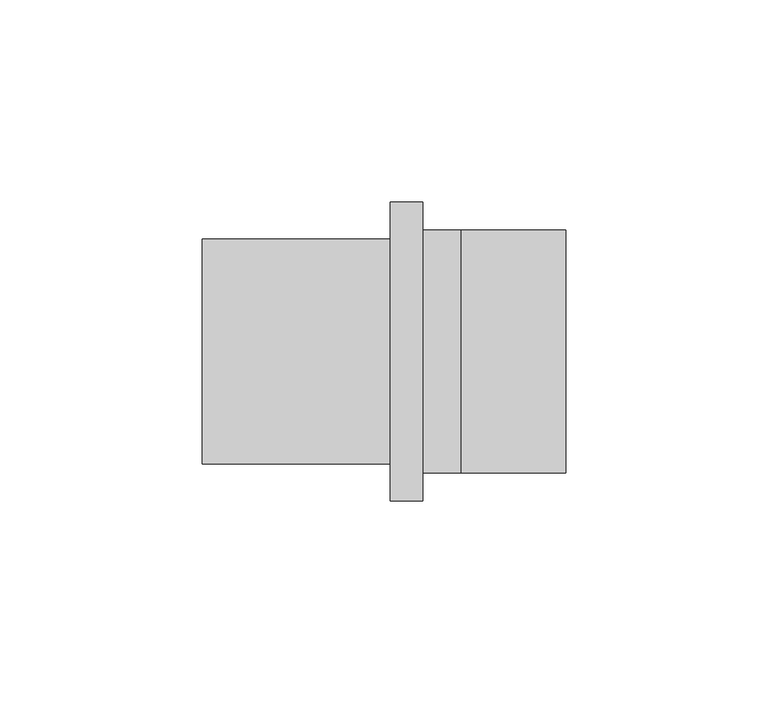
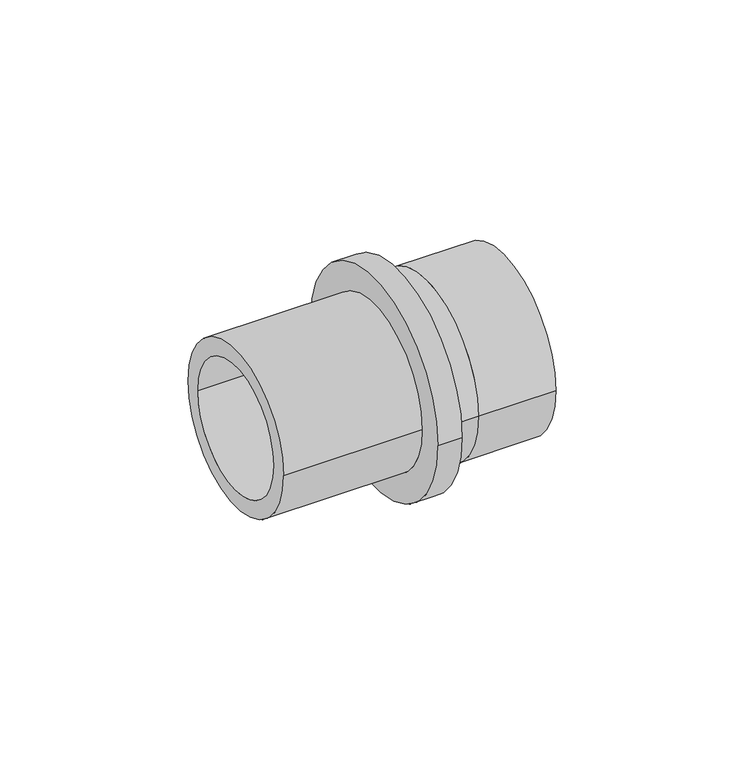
"""IFC4 building model written with IfcOpenShell, lengths in millimetres: pipe fitting geometry, Adapter with welding end : A welding LX."""

import ifcopenshell
import ifcopenshell.guid

model = None  # the IFC model being written
_history = None  # IfcOwnerHistory: only IFC2X3 demands one
_inside = {}  # id of a spatial element -> (the spatial element, [elements in it])
_under = {}  # id of a project, library or spatial element -> (it, [spatial elements below it])
_declared = {}  # id of a project -> (the project, [libraries it declares])
_typed = {}  # id of a type object -> (the type object, [elements of that type])
_made_of = {}  # id of a material, layer set ... -> (it, [elements and type objects made of it])


def new_model(schema):
    """Start an empty IFC model of exactly this schema.

    Asked for "IFC4X3", IfcOpenShell would pick the latest addendum, in which some entities
    have other attributes; the version numbers below select the first issue.
    IFC2X3 requires an IfcOwnerHistory on every rooted entity: one is made here for all.
    """
    global model, _history
    if schema == "IFC4X3":
        model = ifcopenshell.file(schema_version=(4, 3, 0, 0))
    else:
        model = ifcopenshell.file(schema=schema)
    _inside.clear()
    _under.clear()
    _declared.clear()
    _typed.clear()
    _made_of.clear()
    _history = None
    if model.schema == "IFC2X3":
        org = make("IfcOrganization", Name="unknown")
        user = make(
            "IfcPersonAndOrganization",
            ThePerson=make("IfcPerson", FamilyName="unknown"),
            TheOrganization=org,
        )
        app = make(
            "IfcApplication",
            ApplicationDeveloper=org,
            Version="unknown",
            ApplicationFullName="unknown",
            ApplicationIdentifier="unknown",
        )
        _history = make(
            "IfcOwnerHistory",
            OwningUser=user,
            OwningApplication=app,
            ChangeAction="ADDED",
            CreationDate=0,
        )
    return model


def make(cls, **values):
    """One entity of the class cls with the attributes given. An attribute that is None is left unset."""
    return model.create_entity(
        cls, **{name: value for name, value in values.items() if value is not None}
    )


def rooted(cls, **values):
    """An entity with a GlobalId (a new one), such as an element, a storey or a relation."""
    return make(cls, GlobalId=ifcopenshell.guid.new(), OwnerHistory=_history, **values)


def si_unit(unit_type, name, prefix=None):
    """IfcSIUnit, for example si_unit("LENGTHUNIT", "METRE", prefix="MILLI")."""
    return make("IfcSIUnit", UnitType=unit_type, Prefix=prefix, Name=name)


def assignment(units):
    """IfcUnitAssignment: the units of a project."""
    return None if units is None else make("IfcUnitAssignment", Units=units)


def point(xyz):
    """IfcCartesianPoint."""
    return None if xyz is None else make("IfcCartesianPoint", Coordinates=xyz)


def direction(xyz):
    """IfcDirection."""
    return None if xyz is None else make("IfcDirection", DirectionRatios=xyz)


def frame(location, z_axis=None, x_axis=None):
    """IfcAxis2Placement3D, a coordinate frame: its origin and axes. An axis left out is left unset."""
    return make(
        "IfcAxis2Placement3D",
        Location=point(location),
        Axis=direction(z_axis),
        RefDirection=direction(x_axis),
    )


def frame_2d(location, x_axis=None):
    """IfcAxis2Placement2D, a coordinate frame in the plane: its origin and x axis."""
    return make(
        "IfcAxis2Placement2D", Location=point(location), RefDirection=direction(x_axis)
    )


def origin():
    """The frame at (0, 0, 0) with its axes left unset."""
    return frame((0.0, 0.0, 0.0))


def origin_2d():
    """The frame at (0, 0) in the plane with its x axis left unset."""
    return frame_2d((0.0, 0.0))


def place(relative_to, where):
    """IfcLocalPlacement: puts the frame where relative to a parent placement (None: the world)."""
    return make(
        "IfcLocalPlacement", PlacementRelTo=relative_to, RelativePlacement=where
    )


def context(
    kind, dimensions, precision=None, world=None, true_north=None, identifier=None
):
    """IfcGeometricRepresentationContext, for example the 3D "Model" context."""
    return make(
        "IfcGeometricRepresentationContext",
        ContextIdentifier=identifier,
        ContextType=kind,
        CoordinateSpaceDimension=dimensions,
        Precision=precision,
        WorldCoordinateSystem=world,
        TrueNorth=true_north,
    )


def project(units=None, contexts=None):
    """IfcProject with its units and contexts."""
    return rooted(
        "IfcProject",
        Name="project",
        RepresentationContexts=contexts,
        UnitsInContext=assignment(units),
    )


def spatial(cls, under=None, at=None, **own):
    """A site, building, storey or space (cls), placed at a placement, below another one or the project."""
    s = rooted(cls, ObjectPlacement=at, **own)
    if under is not None:
        _under.setdefault(under.id(), (under, []))[1].append(s)
    return s


def polyline(points):
    """IfcPolyline through the points."""
    return make("IfcPolyline", Points=[point(p) for p in points])


def circle_curve(where, radius):
    """IfcCircle in the frame where."""
    return make("IfcCircle", Position=where, Radius=radius)


def trimmed(basis, trim1, trim2, sense, master):
    """IfcTrimmedCurve: the piece of a basis curve between two trims."""
    return make(
        "IfcTrimmedCurve",
        BasisCurve=basis,
        Trim1=trim1,
        Trim2=trim2,
        SenseAgreement=sense,
        MasterRepresentation=master,
    )


def segment(curve, same_sense, transition):
    """IfcCompositeCurveSegment."""
    return make(
        "IfcCompositeCurveSegment",
        Transition=transition,
        SameSense=same_sense,
        ParentCurve=curve,
    )


def composite_curve(segments, self_intersect=None):
    """IfcCompositeCurve: segments joined end to end."""
    return make("IfcCompositeCurve", Segments=segments, SelfIntersect=self_intersect)


def outline(outer, holes=None, kind="AREA"):
    """IfcArbitraryClosedProfileDef: a profile drawn as a closed curve; with holes, ...WithVoids."""
    if holes is None:
        return make("IfcArbitraryClosedProfileDef", ProfileType=kind, OuterCurve=outer)
    return make(
        "IfcArbitraryProfileDefWithVoids",
        ProfileType=kind,
        OuterCurve=outer,
        InnerCurves=holes,
    )


def extrude(swept, where, along, depth):
    """IfcExtrudedAreaSolid: the profile swept, set in the frame where, extruded along a direction by depth."""
    return make(
        "IfcExtrudedAreaSolid",
        SweptArea=swept,
        Position=where,
        ExtrudedDirection=direction(along),
        Depth=depth,
    )


def shape(context_of_items, identifier, shape_type, items):
    """IfcShapeRepresentation: the items that make up one representation, for example the "Body"."""
    return make(
        "IfcShapeRepresentation",
        ContextOfItems=context_of_items,
        RepresentationIdentifier=identifier,
        RepresentationType=shape_type,
        Items=items,
    )


def source(mapping_origin, context_of_items, identifier, shape_type, items):
    """IfcRepresentationMap: a shape defined once, which mapped items show again and again."""
    return make(
        "IfcRepresentationMap",
        MappingOrigin=mapping_origin,
        MappedRepresentation=shape(context_of_items, identifier, shape_type, items),
    )


def transform(
    local_origin,
    x_axis=None,
    y_axis=None,
    z_axis=None,
    scale=None,
    scale2=None,
    scale3=None,
    uniform=True,
):
    """IfcCartesianTransformationOperator3D, or its non-uniform kind. x_axis, y_axis, z_axis: its Axis1, 2, 3."""
    if uniform:
        return make(
            "IfcCartesianTransformationOperator3D",
            Axis1=direction(x_axis),
            Axis2=direction(y_axis),
            LocalOrigin=point(local_origin),
            Scale=scale,
            Axis3=direction(z_axis),
        )
    return make(
        "IfcCartesianTransformationOperator3DnonUniform",
        Axis1=direction(x_axis),
        Axis2=direction(y_axis),
        LocalOrigin=point(local_origin),
        Scale=scale,
        Axis3=direction(z_axis),
        Scale2=scale2,
        Scale3=scale3,
    )


def mapped(mapping_source, mapping_target):
    """IfcMappedItem: shows the shape of a source again, moved by a transform."""
    return make(
        "IfcMappedItem", MappingSource=mapping_source, MappingTarget=mapping_target
    )


def made_of(thing, what):
    """Note that an element or type object is made of a material, layer set ...; save() writes the relation."""
    if what is not None:
        _made_of.setdefault(what.id(), (what, []))[1].append(thing)
    return thing


def element(
    cls,
    number,
    at=None,
    inside=None,
    cuts=None,
    type_object=None,
    material=None,
    context=None,
    identifier="Body",
    shape_type=None,
    held_by="IfcProductDefinitionShape",
    body=None,
    shapes=None,
    **own,
):
    """One element of the class cls, such as IfcWall. Its Tag is "e" and its number.

    at: its placement. inside: the storey or other place that contains it. cuts: it is an
    opening in that element (IfcRelVoidsElement). A single representation is given by context,
    identifier, shape_type and body (its items); several are given by shapes. held_by: the class
    of the entity that holds the representations. save() writes the other relations.
    """
    e = rooted(cls, Tag="e%d" % number, ObjectPlacement=at, **own)
    if body is not None:
        shapes = [shape(context, identifier, shape_type, body)]
    if shapes is not None:
        e.Representation = make(held_by, Representations=shapes)
    if inside is not None:
        _inside.setdefault(inside.id(), (inside, []))[1].append(e)
    if cuts is not None:
        rooted(
            "IfcRelVoidsElement", RelatingBuildingElement=cuts, RelatedOpeningElement=e
        )
    if type_object is not None:
        _typed.setdefault(type_object.id(), (type_object, []))[1].append(e)
    return made_of(e, material)


def aggregate(whole, parts):
    """IfcRelAggregates: a whole, such as a stair, and the parts it consists of."""
    return rooted("IfcRelAggregates", RelatingObject=whole, RelatedObjects=parts)


def save(model, path):
    """Write the relations noted so far, then the file.

    IfcRelAggregates (storeys below a building ...), IfcRelContainedInSpatialStructure (elements
    in a storey), IfcRelDefinesByType, IfcRelAssociatesMaterial and IfcRelDeclares: one each for
    every whole, place, type object, material and project.
    """
    for whole, parts in _under.values():
        aggregate(whole, parts)
    for where, things in _inside.values():
        rooted(
            "IfcRelContainedInSpatialStructure",
            RelatedElements=things,
            RelatingStructure=where,
        )
    for kind, things in _typed.values():
        rooted("IfcRelDefinesByType", RelatedObjects=things, RelatingType=kind)
    for what, things in _made_of.values():
        rooted("IfcRelAssociatesMaterial", RelatedObjects=things, RelatingMaterial=what)
    for by, libraries in _declared.values():
        rooted("IfcRelDeclares", RelatingContext=by, RelatedDefinitions=libraries)
    model.write(path)


def plane_surface(at):
    """IfcPlane: the flat surface through the origin of the frame at, square to its z axis."""
    return make("IfcPlane", Position=at)


def cylinder_surface(at, radius):
    """IfcCylindricalSurface: all points at the distance radius from the z axis of the frame at."""
    return make("IfcCylindricalSurface", Position=at, Radius=radius)


def revolved_surface(curve, axis_point, axis_direction):
    """IfcSurfaceOfRevolution: the curve turned about the line through axis_point along axis_direction."""
    return make(
        "IfcSurfaceOfRevolution",
        SweptCurve=make("IfcArbitraryOpenProfileDef", ProfileType="CURVE", Curve=curve),
        AxisPosition=make("IfcAxis1Placement", Location=point(axis_point), Axis=direction(axis_direction)),
    )


def advanced_brep(points, edges, surfaces, faces):
    """IfcAdvancedBrep: a solid bounded by faces that lie on surfaces and meet in shared edges.

    An edge is (start, end): straight between two places in points (the first is 0);
    or (start, end, curve); or (start, end, curve, False) where it runs against its curve.
    A face is (place in surfaces, loops), or (place, loops, False) where it looks against
    its surface's normal. A loop lists edges by number (the first is 1), with a minus sign
    where the edge is run from its end to its start. The first loop is the outer one.
    """
    corners = [point(p) for p in points]
    vertices = [make("IfcVertexPoint", VertexGeometry=c) for c in corners]
    made = []
    for start, end, *more in edges:
        made.append(
            make(
                "IfcEdgeCurve",
                EdgeStart=vertices[start],
                EdgeEnd=vertices[end],
                EdgeGeometry=more[0] if more else make("IfcPolyline", Points=[corners[start], corners[end]]),
                SameSense=more[1] if len(more) > 1 else True,
            )
        )
    hull = []
    for where, loops, *sense in faces:
        bounds = []
        for j, loop in enumerate(loops):
            ring = [make("IfcOrientedEdge", EdgeElement=made[abs(k) - 1], Orientation=k > 0) for k in loop]
            bounds.append(
                make(
                    "IfcFaceOuterBound" if j == 0 else "IfcFaceBound",
                    Bound=make("IfcEdgeLoop", EdgeList=ring),
                    Orientation=True,
                )
            )
        hull.append(make("IfcAdvancedFace", Bounds=bounds, FaceSurface=surfaces[where], SameSense=sense[0] if sense else True))
    return make("IfcAdvancedBrep", Outer=make("IfcClosedShell", CfsFaces=hull))


def pipe_fitting_3647528e(model_context):
    return source(origin(), model_context, "Body", "SolidModel", [
        advanced_brep(
        [(0.0, 30.1, 0.0), (0.0, -30.1, 0.0), (-9.4, -30.1, 0.0), (-9.4, 30.1, 0.0), (-9.4, 27.2, 0.0), (-9.4, -27.2, 0.0), (0.0, -27.2, 0.0), (0.0, 27.2, 0.0), (-64.0, 22.0, 0.0), (-64.0, -22.0, 0.0), (-9.4, -22.0, 0.0), (-9.4, 22.0, 0.0), (-17.5, 27.8, 0.0), (-17.5, -27.8, 0.0), (-64.0, -27.8, 0.0), (-64.0, 27.8, 0.0), (-9.4, 37.0, 0.0), (-9.4, -37.0, 0.0), (-17.5, -37.0, 0.0), (-17.5, 37.0, 0.0)],
        [
            (0, 1, circle_curve(frame((0.0, 0.0, 0.0), z_axis=(-1.0, 0.0, 0.0), x_axis=(0.0, -1.0, 0.0)), 30.1)),
            (1, 2),
            (2, 3, circle_curve(frame((-9.4, 0.0, 0.0), z_axis=(1.0, 0.0, 0.0), x_axis=(0.0, -1.0, 0.0)), 30.1)),
            (3, 0),
            (4, 5, circle_curve(frame((-9.4, 0.0, 0.0), z_axis=(-1.0, 0.0, 0.0), x_axis=(0.0, -1.0, 0.0)), 27.2)),
            (5, 6),
            (6, 7, circle_curve(frame((0.0, 0.0, 0.0), z_axis=(1.0, 0.0, 0.0), x_axis=(0.0, -1.0, 0.0)), 27.2)),
            (7, 4),
            (8, 9, circle_curve(frame((-64.0, 0.0, 0.0), z_axis=(-1.0, 0.0, 0.0), x_axis=(0.0, -1.0, 0.0)), 22.0)),
            (9, 10),
            (10, 11, circle_curve(frame((-9.4, 0.0, 0.0), z_axis=(1.0, 0.0, 0.0), x_axis=(0.0, -1.0, 0.0)), 22.0)),
            (11, 8),
            (12, 13, circle_curve(frame((-17.5, 0.0, 0.0), z_axis=(-1.0, 0.0, 0.0), x_axis=(0.0, -1.0, 0.0)), 27.8)),
            (13, 14),
            (14, 15, circle_curve(frame((-64.0, 0.0, 0.0), z_axis=(1.0, 0.0, 0.0), x_axis=(0.0, -1.0, 0.0)), 27.8)),
            (15, 12),
            (16, 17, circle_curve(frame((-9.4, 0.0, 0.0), z_axis=(-1.0, 0.0, 0.0), x_axis=(0.0, -1.0, 0.0)), 37.0)),
            (17, 18),
            (18, 19, circle_curve(frame((-17.5, 0.0, 0.0), z_axis=(1.0, 0.0, 0.0), x_axis=(0.0, -1.0, 0.0)), 37.0)),
            (19, 16),
            (16, 17, circle_curve(frame((-9.4, 0.0, 0.0), z_axis=(1.0, 0.0, 0.0), x_axis=(0.0, 1.0, 0.0)), 37.0)),
            (2, 3, circle_curve(frame((-9.4, 0.0, 0.0), z_axis=(-1.0, 0.0, 0.0), x_axis=(0.0, 1.0, 0.0)), 30.1)),
            (1, 0, circle_curve(frame((0.0, 0.0, 0.0), z_axis=(-1.0, 0.0, 0.0), x_axis=(0.0, 1.0, 0.0)), 30.1)),
            (6, 7, circle_curve(frame((0.0, 0.0, 0.0), z_axis=(-1.0, 0.0, 0.0), x_axis=(0.0, 1.0, 0.0)), 27.2)),
            (5, 4, circle_curve(frame((-9.4, 0.0, 0.0), z_axis=(-1.0, 0.0, 0.0), x_axis=(0.0, 1.0, 0.0)), 27.2)),
            (10, 11, circle_curve(frame((-9.4, 0.0, 0.0), z_axis=(-1.0, 0.0, 0.0), x_axis=(0.0, 1.0, 0.0)), 22.0)),
            (9, 8, circle_curve(frame((-64.0, 0.0, 0.0), z_axis=(-1.0, 0.0, 0.0), x_axis=(0.0, 1.0, 0.0)), 22.0)),
            (14, 15, circle_curve(frame((-64.0, 0.0, 0.0), z_axis=(-1.0, 0.0, 0.0), x_axis=(0.0, 1.0, 0.0)), 27.8)),
            (13, 12, circle_curve(frame((-17.5, 0.0, 0.0), z_axis=(-1.0, 0.0, 0.0), x_axis=(0.0, 1.0, 0.0)), 27.8)),
            (18, 19, circle_curve(frame((-17.5, 0.0, 0.0), z_axis=(-1.0, 0.0, 0.0), x_axis=(0.0, 1.0, 0.0)), 37.0)),
        ],
        [
            cylinder_surface(frame((0.0, 0.0, 0.0), z_axis=(1.0, 0.0, 0.0), x_axis=(0.0, -1.0, 0.0)), 30.1),
            revolved_surface(polyline([(0.0, -27.2, 0.0), (-9.4, -27.2, 0.0)]), (0.0, 0.0, 0.0), (1.0, 0.0, 0.0)),
            revolved_surface(polyline([(-9.4, -22.0, 0.0), (-64.0, -22.0, 0.0)]), (0.0, 0.0, 0.0), (1.0, 0.0, 0.0)),
            cylinder_surface(frame((0.0, 0.0, 0.0), z_axis=(1.0, 0.0, 0.0), x_axis=(0.0, -1.0, 0.0)), 27.8),
            cylinder_surface(frame((0.0, 0.0, 0.0), z_axis=(1.0, 0.0, 0.0), x_axis=(0.0, -1.0, 0.0)), 37.0),
            plane_surface(frame((-9.4, 0.0, 0.0), z_axis=(1.0, 0.0, 0.0), x_axis=(0.0, 1.0, 0.0))),
            cylinder_surface(frame((0.0, 0.0, 0.0), z_axis=(1.0, 0.0, 0.0), x_axis=(0.0, 1.0, 0.0)), 30.1),
            plane_surface(frame((0.0, 0.0, 0.0), z_axis=(1.0, 0.0, 0.0), x_axis=(0.0, 1.0, 0.0))),
            revolved_surface(polyline([(0.0, 27.2, 0.0), (-9.4, 27.2, 0.0)]), (0.0, 0.0, 0.0), (1.0, 0.0, 0.0)),
            revolved_surface(polyline([(-9.4, 22.0, 0.0), (-64.0, 22.0, 0.0)]), (0.0, 0.0, 0.0), (1.0, 0.0, 0.0)),
            plane_surface(frame((-64.0, 0.0, 0.0), z_axis=(-1.0, 0.0, 0.0), x_axis=(0.0, 1.0, 0.0))),
            cylinder_surface(frame((0.0, 0.0, 0.0), z_axis=(1.0, 0.0, 0.0), x_axis=(0.0, 1.0, 0.0)), 27.8),
            plane_surface(frame((-17.5, 0.0, 0.0), z_axis=(-1.0, 0.0, 0.0), x_axis=(0.0, 1.0, 0.0))),
            cylinder_surface(frame((0.0, 0.0, 0.0), z_axis=(1.0, 0.0, 0.0), x_axis=(0.0, 1.0, 0.0)), 37.0),
        ],
        [
            (0, [[1, 2, 3, 4]]),
            (1, [[5, 6, 7, 8]]),
            (2, [[9, 10, 11, 12]]),
            (3, [[13, 14, 15, 16]]),
            (4, [[17, 18, 19, 20]]),
            (5, [[21, -17], [22, -3]]),
            (6, [[23, -4, -22, -2]]),
            (7, [[-23, -1], [24, -7]]),
            (8, [[25, -8, -24, -6]]),
            (5, [[-25, -5], [26, -11]]),
            (9, [[27, -12, -26, -10]]),
            (10, [[28, -15], [-27, -9]]),
            (11, [[29, -16, -28, -14]]),
            (12, [[30, -19], [-29, -13]]),
            (13, [[-21, -20, -30, -18]]),
        ],
    ),
        extrude(outline(composite_curve([segment(trimmed(circle_curve(origin_2d(), 30.1), [point((-30.1, 0.0))], [point((30.1, 0.0))], False, "CARTESIAN"), True, "CONTINUOUS"), segment(trimmed(circle_curve(origin_2d(), 30.1), [point((30.1, 0.0))], [point((-30.1, 0.0))], False, "CARTESIAN"), True, "CONTINUOUS")], self_intersect=False), holes=[composite_curve([segment(trimmed(circle_curve(origin_2d(), 27.2), [point((27.2, 0.0))], [point((-27.2, 0.0))], True, "CARTESIAN"), True, "CONTINUOUS"), segment(trimmed(circle_curve(origin_2d(), 27.2), [point((-27.2, 0.0))], [point((27.2, 0.0))], True, "CARTESIAN"), True, "CONTINUOUS")], self_intersect=False)]), frame((0.0, 0.0, 0.0), z_axis=(1.0, 0.0, 0.0), x_axis=(0.0, 1.0, 0.0)), (0.0, 0.0, 1.0), 26.0),
    ])


if __name__ == "__main__":
    model = new_model("IFC4")
    model_context = context("Model", 3, world=origin())
    ifc_project = project(units=[si_unit("LENGTHUNIT", "METRE", prefix="MILLI")], contexts=[model_context])
    site = spatial("IfcSite", under=ifc_project)
    building = spatial("IfcBuilding", under=site)
    placement = place(None, origin())
    pipe_fitting_shape = pipe_fitting_3647528e(model_context)
    element("IfcPipeFitting", 1, ObjectType="Adapter with welding end : A welding LX", at=placement, inside=building, context=model_context, shape_type="MappedRepresentation", body=[
        mapped(pipe_fitting_shape, transform((0.0, 0.0, 0.0), x_axis=(1.0, 0.0, 0.0), y_axis=(0.0, 1.0, 0.0), z_axis=(0.0, 0.0, 1.0))),
    ])
    save(model, "model.ifc")
